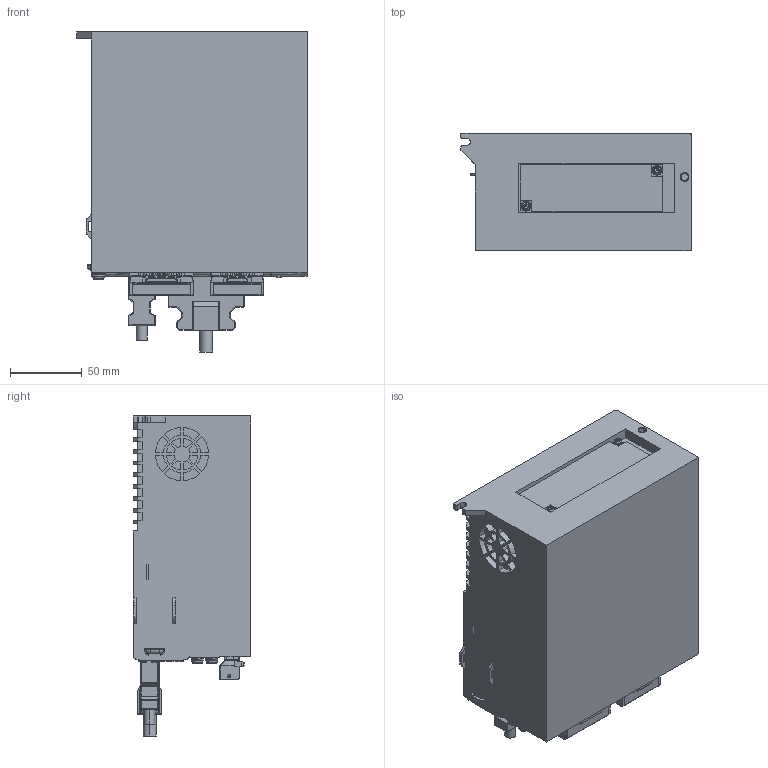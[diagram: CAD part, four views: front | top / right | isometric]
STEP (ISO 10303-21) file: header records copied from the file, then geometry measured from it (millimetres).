
FILE_DESCRIPTION (( 'STEP AP214' ), '1' );
FILE_NAME ('Ω6s-AP-C型-通用&基础-整机外形图.STEP', '2023-04-19T02:22:01', ( '' ), ( '' ), 'SwSTEP 2.0', 'SolidWorks 2014', '' );
FILE_SCHEMA (( 'AUTOMOTIVE_DESIGN' ));
Length unit declared in the file: millimetre
Products named in the file (23): 1.5KWP; STOM2X04P; 橈勤硉晤鎢ん脣芛; M3-H6; plug-t3507506; 控制回路端子插座-SCI-SOSCN-君昊; jack-t3507506; M4-H8; jack-t3507505; 次6s-AP-C倰-籵蚚&價插-淕儂俋倛芞; plug-t3507505
Assembly tree (12 placements, depth 2):
  橈勤硉晤鎢ん脣芛
  M3-H6
  控制回路端子插座-SCI-SOSCN-君昊
  jack-t3507505
  次6s-AP-C倰-籵蚚&價插-淕儂俋倛芞
    1.5KWP
    M4-H8  x2
    jack-t3507505
    jack-t3507506
    plug-t3507505
    STOM2X04P
    plug-t3507506
    M3-H6  x2
    橈勤硉晤鎢ん脣芛
    控制回路端子插座-SCI-SOSCN-君昊
Bounding box: 160 x 81.5 x 222.6 mm (x, y, z)
Volume: 1861936.7 mm3; surface area: 234435.7 mm2
Topology: 23 solids, 24 shells, 4239 faces, 11688 edges, 7549 vertices
Faces by surface type: plane 3184, cylinder 544, bspline 441, sphere 26, torus 24, cone 20
Entity records: 150791 total; most frequent: CARTESIAN_POINT 47347, ORIENTED_EDGE 22936, DIRECTION 18434, EDGE_CURVE 11468, VECTOR 9272, LINE 9272, VERTEX_POINT 7421, AXIS2_PLACEMENT_3D 4581
